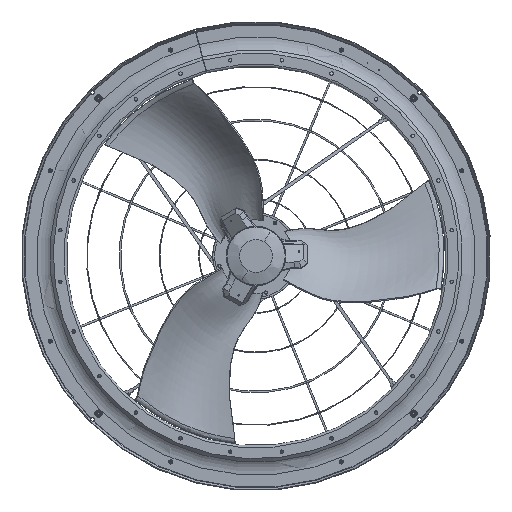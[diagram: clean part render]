
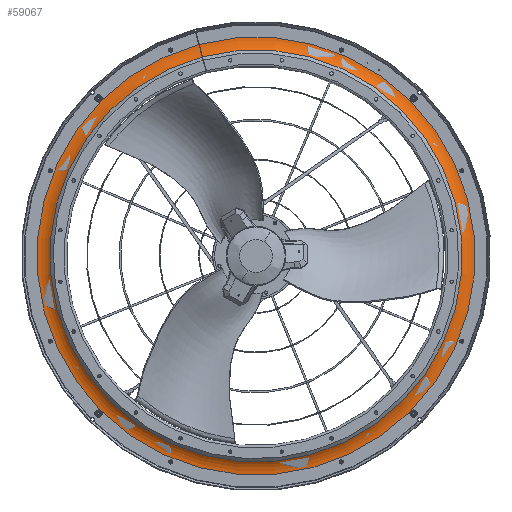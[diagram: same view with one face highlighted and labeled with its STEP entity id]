
A CAD part, left-side view. The second image highlights one B-rep face of the part: STEP entity #59067.
In plain terms, the highlighted toroidal (fillet/blend) face has major radius 727.45 mm and minor radius 67.5 mm.
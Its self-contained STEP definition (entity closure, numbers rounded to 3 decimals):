
#24725=CARTESIAN_POINT('',(278.2,0.,0.));
#24726=DIRECTION('',(1.,0.,0.));
#24727=DIRECTION('',(0.,0.259,0.966));
#24728=AXIS2_PLACEMENT_3D('',#24725,#24726,#24727);
#24994=CARTESIAN_POINT('',(262.9,0.,0.));
#24995=DIRECTION('',(1.,0.,0.));
#24996=DIRECTION('',(0.,0.259,0.966));
#24997=AXIS2_PLACEMENT_3D('',#24994,#24995,#24996);
#24999=CARTESIAN_POINT('',(210.7,188.278,702.663));
#25000=DIRECTION('',(0.,-0.966,0.259));
#25001=DIRECTION('',(0.773,-0.164,-0.612));
#25002=AXIS2_PLACEMENT_3D('',#24999,#25000,#25001);
#25338=CARTESIAN_POINT('',(210.7,189.95,702.212));
#25339=DIRECTION('',(0.,-0.965,0.261));
#25340=DIRECTION('',(0.773,-0.166,-0.612));
#25341=AXIS2_PLACEMENT_3D('',#25338,#25339,#25340);
#45031=CARTESIAN_POINT('',(262.9,177.202,661.326));
#45032=VERTEX_POINT('',#45031);
#45033=CARTESIAN_POINT('',(262.9,178.776,660.902));
#45034=VERTEX_POINT('',#45033);
#45039=CARTESIAN_POINT('',(278.2,188.278,702.663));
#45040=VERTEX_POINT('',#45039);
#45041=CARTESIAN_POINT('',(278.2,189.95,702.212));
#45042=VERTEX_POINT('',#45041);
#59053=CARTESIAN_POINT('',(210.7,0.,0.));
#59054=DIRECTION('',(1.,0.,0.));
#59055=DIRECTION('',(0.,-0.259,-0.966));
#59056=AXIS2_PLACEMENT_3D('',#59053,#59054,#59055);
#59057=TOROIDAL_SURFACE('',#59056,727.45,67.5);
#59059=ORIENTED_EDGE('',*,*,#59058,.T.);
#59060=ORIENTED_EDGE('',*,*,#58927,.T.);
#59062=ORIENTED_EDGE('',*,*,#59061,.F.);
#59064=ORIENTED_EDGE('',*,*,#59063,.F.);
#59065=EDGE_LOOP('',(#59059,#59060,#59062,#59064));
#59066=FACE_OUTER_BOUND('',#59065,.F.);
#24729=CIRCLE('',#24728,727.45);
#24998=CIRCLE('',#24997,684.655);
#25003=CIRCLE('',#25002,67.5);
#25342=CIRCLE('',#25341,67.5);
#58927=EDGE_CURVE('',#45040,#45042,#24729,.T.);
#59058=EDGE_CURVE('',#45032,#45040,#25003,.T.);
#59061=EDGE_CURVE('',#45034,#45042,#25342,.T.);
#59063=EDGE_CURVE('',#45032,#45034,#24998,.T.);
#59067=ADVANCED_FACE('',(#59066),#59057,.F.);
